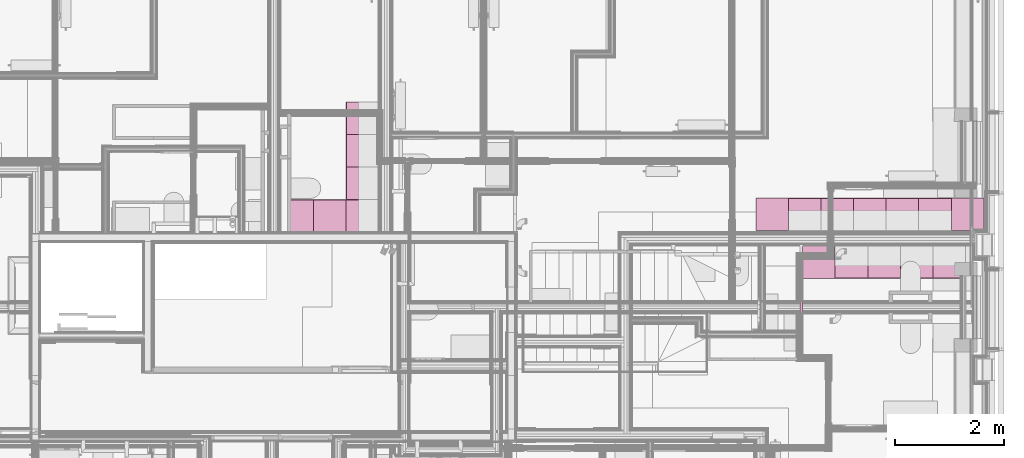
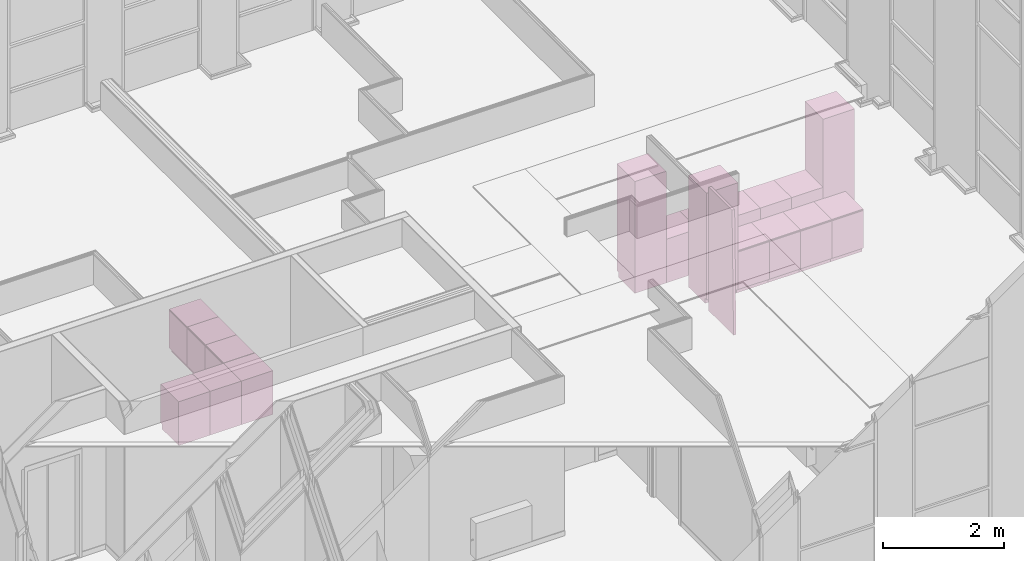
# One storey, part 168 of 169: 19 furnishings.
"""IFC2X3 building model written with IfcOpenShell, lengths in metres."""

from ifc_helpers import new_model, entity, si_unit, converted_unit, derived_unit, money_unit, direction, frame, origin_with_axes, place, context, subcontext, project, spatial, faceted_brep, material, type_object, element, save


model = new_model("IFC2X3")

# Units and contexts
model_context = context("Model", 3, precision=1e-05, world=origin_with_axes(), true_north=direction((0.0, 1.0)))
body_context = subcontext(model_context, "Body", "Model", "MODEL_VIEW", scale=1.0)
ifc_project = project(units=[si_unit("LENGTHUNIT", "METRE"), si_unit("AREAUNIT", "SQUARE_METRE"), si_unit("VOLUMEUNIT", "CUBIC_METRE"), si_unit("ABSORBEDDOSEUNIT", "GRAY"), si_unit("AMOUNTOFSUBSTANCEUNIT", "MOLE"), si_unit("DOSEEQUIVALENTUNIT", "SIEVERT"), si_unit("ELECTRICCAPACITANCEUNIT", "FARAD"), si_unit("ELECTRICCHARGEUNIT", "COULOMB"), si_unit("ELECTRICCONDUCTANCEUNIT", "SIEMENS"), si_unit("ELECTRICCURRENTUNIT", "AMPERE"), si_unit("ELECTRICRESISTANCEUNIT", "OHM"), si_unit("ELECTRICVOLTAGEUNIT", "VOLT"), si_unit("ENERGYUNIT", "JOULE"), si_unit("FORCEUNIT", "NEWTON"), si_unit("FREQUENCYUNIT", "HERTZ"), si_unit("ILLUMINANCEUNIT", "LUX"), si_unit("INDUCTANCEUNIT", "HENRY"), si_unit("LUMINOUSFLUXUNIT", "LUMEN"), si_unit("LUMINOUSINTENSITYUNIT", "CANDELA"), si_unit("MAGNETICFLUXDENSITYUNIT", "TESLA"), si_unit("MAGNETICFLUXUNIT", "WEBER"), si_unit("MASSUNIT", "GRAM"), converted_unit("PLANEANGLEUNIT", "degree", entity("IfcReal", 0.0174532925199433), si_unit("PLANEANGLEUNIT", "RADIAN"), dimensions=[0, 0, 0, 0, 0, 0, 0]), si_unit("POWERUNIT", "WATT"), si_unit("PRESSUREUNIT", "PASCAL"), si_unit("RADIOACTIVITYUNIT", "BECQUEREL"), si_unit("SOLIDANGLEUNIT", "STERADIAN"), si_unit("THERMODYNAMICTEMPERATUREUNIT", "KELVIN"), si_unit("TIMEUNIT", "SECOND"), derived_unit("ACCELERATIONUNIT", [(si_unit("LENGTHUNIT", "METRE"), 1), (si_unit("TIMEUNIT", "SECOND"), -2)]), derived_unit("ANGULARVELOCITYUNIT", [(converted_unit("PLANEANGLEUNIT", "degree", entity("IfcReal", 0.0174532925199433), si_unit("PLANEANGLEUNIT", "RADIAN"), dimensions=[0, 0, 0, 0, 0, 0, 0]), 1), (si_unit("TIMEUNIT", "SECOND"), -1)]), derived_unit("CURVATUREUNIT", [(converted_unit("PLANEANGLEUNIT", "degree", entity("IfcReal", 0.0174532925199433), si_unit("PLANEANGLEUNIT", "RADIAN"), dimensions=[0, 0, 0, 0, 0, 0, 0]), 1), (si_unit("LENGTHUNIT", "METRE"), -1)]), derived_unit("DYNAMICVISCOSITYUNIT", [(si_unit("PRESSUREUNIT", "PASCAL"), 1), (si_unit("TIMEUNIT", "SECOND"), 1)]), derived_unit("HEATFLUXDENSITYUNIT", [(si_unit("POWERUNIT", "WATT"), 1), (si_unit("LENGTHUNIT", "METRE"), -2)]), derived_unit("HEATINGVALUEUNIT", [(si_unit("ENERGYUNIT", "JOULE"), 1), (si_unit("MASSUNIT", "GRAM"), -1)]), derived_unit("INTEGERCOUNTRATEUNIT", [(si_unit("TIMEUNIT", "SECOND"), -1)]), derived_unit("IONCONCENTRATIONUNIT", [(si_unit("MASSUNIT", "GRAM"), 1), (si_unit("VOLUMEUNIT", "CUBIC_METRE"), -1)]), derived_unit("ISOTHERMALMOISTURECAPACITYUNIT", [(si_unit("VOLUMEUNIT", "CUBIC_METRE"), 1), (si_unit("MASSUNIT", "GRAM"), -1)]), derived_unit("KINEMATICVISCOSITYUNIT", [(si_unit("AREAUNIT", "SQUARE_METRE"), 1), (si_unit("TIMEUNIT", "SECOND"), -1)]), derived_unit("LINEARFORCEUNIT", [(si_unit("FORCEUNIT", "NEWTON"), 1), (si_unit("LENGTHUNIT", "METRE"), -1)]), derived_unit("LINEARMOMENTUNIT", [(si_unit("FORCEUNIT", "NEWTON"), 1), (si_unit("LENGTHUNIT", "METRE"), -1)]), derived_unit("LINEARSTIFFNESSUNIT", [(si_unit("FORCEUNIT", "NEWTON"), 1), (si_unit("LENGTHUNIT", "METRE"), -1)]), derived_unit("LINEARVELOCITYUNIT", [(si_unit("LENGTHUNIT", "METRE"), 1), (si_unit("TIMEUNIT", "SECOND"), -1)]), derived_unit("LUMINOUSINTENSITYDISTRIBUTIONUNIT", [(si_unit("LUMINOUSINTENSITYUNIT", "CANDELA"), 1), (si_unit("LUMINOUSFLUXUNIT", "LUMEN"), -1)]), derived_unit("MASSDENSITYUNIT", [(si_unit("MASSUNIT", "GRAM"), 1), (si_unit("VOLUMEUNIT", "CUBIC_METRE"), -1)]), derived_unit("MASSFLOWRATEUNIT", [(si_unit("MASSUNIT", "GRAM"), 1), (si_unit("TIMEUNIT", "SECOND"), -1)]), derived_unit("MASSPERLENGTHUNIT", [(si_unit("MASSUNIT", "GRAM"), 1), (si_unit("LENGTHUNIT", "METRE"), -1)]), derived_unit("MODULUSOFELASTICITYUNIT", [(si_unit("FORCEUNIT", "NEWTON"), 1), (si_unit("AREAUNIT", "SQUARE_METRE"), -1)]), derived_unit("MODULUSOFLINEARSUBGRADEREACTIONUNIT", [(si_unit("FORCEUNIT", "NEWTON"), 1), (si_unit("LENGTHUNIT", "METRE"), -2)]), derived_unit("MODULUSOFROTATIONALSUBGRADEREACTIONUNIT", [(si_unit("FORCEUNIT", "NEWTON"), 1), (si_unit("LENGTHUNIT", "METRE"), 1)]), derived_unit("MODULUSOFSUBGRADEREACTIONUNIT", [(si_unit("FORCEUNIT", "NEWTON"), 1), (si_unit("VOLUMEUNIT", "CUBIC_METRE"), -1)]), derived_unit("MOISTUREDIFFUSIVITYUNIT", [(si_unit("VOLUMEUNIT", "CUBIC_METRE"), 1), (si_unit("TIMEUNIT", "SECOND"), -1)]), derived_unit("MOLECULARWEIGHTUNIT", [(si_unit("MASSUNIT", "GRAM"), 1), (si_unit("AMOUNTOFSUBSTANCEUNIT", "MOLE"), -1)]), derived_unit("PLANARFORCEUNIT", [(si_unit("FORCEUNIT", "NEWTON"), 1), (si_unit("LENGTHUNIT", "METRE"), -2)]), derived_unit("ROTATIONALFREQUENCYUNIT", [(si_unit("TIMEUNIT", "SECOND"), -1)]), derived_unit("ROTATIONALMASSUNIT", [(si_unit("MASSUNIT", "GRAM"), 1), (si_unit("LENGTHUNIT", "METRE"), 2)]), derived_unit("ROTATIONALSTIFFNESSUNIT", [(si_unit("FORCEUNIT", "NEWTON"), 1), (si_unit("LENGTHUNIT", "METRE"), 1), (converted_unit("PLANEANGLEUNIT", "degree", entity("IfcReal", 0.0174532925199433), si_unit("PLANEANGLEUNIT", "RADIAN"), dimensions=[0, 0, 0, 0, 0, 0, 0]), -1)]), derived_unit("SECTIONAREAINTEGRALUNIT", [(si_unit("LENGTHUNIT", "METRE"), 5)]), derived_unit("SECTIONMODULUSUNIT", [(si_unit("LENGTHUNIT", "METRE"), 3)]), derived_unit("SHEARMODULUSUNIT", [(si_unit("FORCEUNIT", "NEWTON"), 1), (si_unit("AREAUNIT", "SQUARE_METRE"), -1)]), derived_unit("SOUNDPOWERUNIT", [(si_unit("ENERGYUNIT", "JOULE"), 1), (si_unit("TIMEUNIT", "SECOND"), -1)]), derived_unit("SPECIFICHEATCAPACITYUNIT", [(si_unit("FORCEUNIT", "NEWTON"), 1), (si_unit("MASSUNIT", "GRAM"), -1), (si_unit("THERMODYNAMICTEMPERATUREUNIT", "KELVIN"), -1)]), derived_unit("TEMPERATUREGRADIENTUNIT", [(si_unit("THERMODYNAMICTEMPERATUREUNIT", "KELVIN"), 1), (si_unit("LENGTHUNIT", "METRE"), -1)]), derived_unit("THERMALADMITTANCEUNIT", [(si_unit("POWERUNIT", "WATT"), 1), (si_unit("AREAUNIT", "SQUARE_METRE"), -1), (si_unit("THERMODYNAMICTEMPERATUREUNIT", "KELVIN"), -1)]), derived_unit("THERMALCONDUCTANCEUNIT", [(si_unit("POWERUNIT", "WATT"), 1), (si_unit("LENGTHUNIT", "METRE"), -1), (si_unit("THERMODYNAMICTEMPERATUREUNIT", "KELVIN"), -1)]), derived_unit("THERMALEXPANSIONCOEFFICIENTUNIT", [(si_unit("THERMODYNAMICTEMPERATUREUNIT", "KELVIN"), -1)]), derived_unit("THERMALRESISTANCEUNIT", [(si_unit("AREAUNIT", "SQUARE_METRE"), 1), (si_unit("POWERUNIT", "WATT"), -1)]), derived_unit("THERMALTRANSMITTANCEUNIT", [(si_unit("POWERUNIT", "WATT"), 1), (si_unit("AREAUNIT", "SQUARE_METRE"), -1), (si_unit("THERMODYNAMICTEMPERATUREUNIT", "KELVIN"), -1)]), derived_unit("TORQUEUNIT", [(si_unit("FORCEUNIT", "NEWTON"), 1), (si_unit("LENGTHUNIT", "METRE"), 1)]), derived_unit("VAPORPERMEABILITYUNIT", [(si_unit("MASSUNIT", "GRAM"), 1), (si_unit("TIMEUNIT", "SECOND"), -1)]), derived_unit("VOLUMETRICFLOWRATEUNIT", [(si_unit("VOLUMEUNIT", "CUBIC_METRE"), 1), (si_unit("TIMEUNIT", "SECOND"), -1)]), derived_unit("WARPINGCONSTANTUNIT", [(si_unit("LENGTHUNIT", "METRE"), 6)]), derived_unit("WARPINGMOMENTUNIT", [(si_unit("FORCEUNIT", "NEWTON"), 1), (si_unit("LENGTHUNIT", "METRE"), 2)]), money_unit("GBP")], contexts=[model_context])

# Site, building, storey, space
site_placement = place(None, origin_with_axes())
site = spatial("IfcSite", under=ifc_project, at=site_placement, Name="Site", CompositionType="ELEMENT")
building_placement = place(site_placement, origin_with_axes())
building = spatial("IfcBuilding", under=site, at=building_placement, Name="Building01", CompositionType="ELEMENT")
storey_placement = place(building_placement, frame((0.0, 0.0, 5.15), z_axis=(0.0, 0.0, 1.0), x_axis=(1.0, 0.0, 0.0)))
storey = spatial("IfcBuildingStorey", under=building, at=storey_placement, Name="1F", CompositionType="ELEMENT", Elevation=5.15)
space_1_placement = place(storey_placement, frame((15.83, 8.82, 0.017975), z_axis=(0.0, 0.0, 1.0), x_axis=(0.0, -1.0, 0.0)))
space_1 = spatial("IfcSpace", under=storey, at=space_1_placement, Name="02", CompositionType="ELEMENT", InteriorOrExteriorSpace="NOTDEFINED")

# Furnishing
ifc_material = material(Name="A_BSUK_StorageScreening_Ffe")
furniture_type_1 = type_object("IfcFurnitureType", Name="SHE_A-Kitchenunit-Tall")
placement = place(storey_placement, frame((0.0, 0.0, -5.15), z_axis=(0.0, 0.0, 1.0), x_axis=(1.0, 0.0, 0.0)))
element("IfcFurnishingElement", 1, at=placement, inside=space_1, type_object=furniture_type_1, material=ifc_material, Name="02", ObjectType="SHE_A-Kitchenunit-Tall", context=body_context, shape_type="Brep", body=[
    faceted_brep([(23.009999, 8.863, 7.414), (22.409999, 8.863, 7.414), (22.409999, 8.863, 5.154), (23.009999, 8.863, 5.154), (22.409999, 9.463, 7.414), (22.409999, 9.463, 5.254), (22.409999, 9.413, 5.254), (22.409999, 9.413, 5.154), (23.009999, 9.413, 5.254), (23.009999, 9.413, 5.154), (23.009999, 9.463, 5.254), (23.009999, 9.463, 7.414)], [[[0, 1, 2, 3]], [[1, 4, 5, 6, 7, 2]], [[8, 9, 7, 6]], [[8, 10, 11, 0, 3, 9]], [[2, 7, 9, 3]], [[5, 4, 11, 10]], [[11, 4, 1, 0]], [[6, 5, 10, 8]]]),
])

# Space
space_2_placement = place(storey_placement, frame((22.624794, 8.82, 0.017975), z_axis=(0.0, 0.0, 1.0), x_axis=(1.0, 0.0, 0.0)))
space_2 = spatial("IfcSpace", under=storey, at=space_2_placement, Name="k/d/l", CompositionType="ELEMENT", InteriorOrExteriorSpace="NOTDEFINED")

# Furnishing
element("IfcFurnishingElement", 2, at=placement, inside=space_2, type_object=furniture_type_1, material=ifc_material, Name="02", ObjectType="SHE_A-Kitchenunit-Tall", context=body_context, shape_type="Brep", body=[
    faceted_brep([(26.609999, 8.863, 7.414), (26.009999, 8.863, 7.414), (26.009999, 8.863, 5.154), (26.609999, 8.863, 5.154), (26.009999, 9.463, 7.414), (26.009999, 9.463, 5.254), (26.009999, 9.413, 5.254), (26.009999, 9.413, 5.154), (26.609999, 9.413, 5.254), (26.609999, 9.413, 5.154), (26.609999, 9.463, 5.254), (26.609999, 9.463, 7.414)], [[[0, 1, 2, 3]], [[1, 4, 5, 6, 7, 2]], [[8, 9, 7, 6]], [[8, 10, 11, 0, 3, 9]], [[2, 7, 9, 3]], [[5, 4, 11, 10]], [[11, 4, 1, 0]], [[6, 5, 10, 8]]]),
])

# Space
space_3_placement = place(storey_placement, frame((20.122661, 5.205, 0.017975), z_axis=(0.0, 0.0, 1.0), x_axis=(1.0, 0.0, 0.0)))
space_3 = spatial("IfcSpace", under=storey, at=space_3_placement, Name="03", CompositionType="ELEMENT", InteriorOrExteriorSpace="NOTDEFINED")

# Furnishing
element("IfcFurnishingElement", 3, at=placement, inside=space_3, type_object=furniture_type_1, material=ifc_material, Name="03", ObjectType="SHE_A-Kitchenunit-Tall", context=body_context, shape_type="Brep", body=[
    faceted_brep([(23.871529, 8.58, 5.154), (23.271529, 8.58, 5.154), (23.271529, 8.58, 7.414), (23.871529, 8.58, 7.414), (23.271529, 8.03, 5.154), (23.271529, 8.03, 5.254), (23.271529, 7.98, 5.254), (23.271529, 7.98, 7.414), (23.871529, 8.03, 5.154), (23.871529, 8.03, 5.254), (23.871529, 7.98, 7.414), (23.871529, 7.98, 5.254)], [[[0, 1, 2, 3]], [[1, 4, 5, 6, 7, 2]], [[5, 4, 8, 9]], [[8, 0, 3, 10, 11, 9]], [[0, 8, 4, 1]], [[11, 10, 7, 6]], [[3, 2, 7, 10]], [[9, 11, 6, 5]]]),
])

# Space
space_4_placement = place(storey_placement, frame((7.289669, 14.582, 0.017975), z_axis=(0.0, 0.0, 1.0), x_axis=(0.0, -1.0, 0.0)))
space_4 = spatial("IfcSpace", under=storey, at=space_4_placement, Name="08", CompositionType="ELEMENT", InteriorOrExteriorSpace="NOTDEFINED")

# Furnishings
furniture_type_2 = type_object("IfcFurnitureType", Name="SHE_A-Kitchenunit-Base")
element("IfcFurnishingElement", 4, at=placement, inside=space_4, type_object=furniture_type_2, material=ifc_material, Name="08", ObjectType="SHE_A-Kitchenunit-Base", context=body_context, shape_type="Brep", body=[
    faceted_brep([(14.868132, 8.835, 6.039), (14.268132, 8.835, 6.039), (14.268132, 8.835, 5.154), (14.868132, 8.835, 5.154), (14.268132, 9.427929, 6.039), (14.268132, 9.435, 6.031929), (14.268132, 9.435, 6.021071), (14.268132, 9.427929, 6.014), (14.268132, 9.435, 6.014), (14.268132, 9.435, 5.254), (14.268132, 9.385, 5.254), (14.268132, 9.385, 5.154), (14.868132, 9.385, 5.254), (14.868132, 9.385, 5.154), (14.868132, 9.435, 5.254), (14.868132, 9.435, 6.014), (14.868132, 9.427929, 6.014), (14.868132, 9.435, 6.021071), (14.868132, 9.435, 6.031929), (14.868132, 9.427929, 6.039)], [[[0, 1, 2, 3]], [[1, 4, 5, 6, 7, 8, 9, 10, 11, 2]], [[12, 13, 11, 10]], [[12, 14, 15, 16, 17, 18, 19, 0, 3, 13]], [[2, 11, 13, 3]], [[7, 16, 15, 8]], [[9, 8, 15, 14]], [[10, 9, 14, 12]], [[5, 18, 17, 6]], [[19, 4, 1, 0]], [[6, 17, 16, 7]], [[4, 19, 18, 5]]]),
])
element("IfcFurnishingElement", 5, at=placement, inside=space_4, type_object=furniture_type_2, material=ifc_material, Name="08", ObjectType="SHE_A-Kitchenunit-Base", context=body_context, shape_type="Brep", body=[
    faceted_brep([(15.468132, 8.835, 6.039), (14.868132, 8.835, 6.039), (14.868132, 8.835, 5.154), (15.468132, 8.835, 5.154), (14.868132, 9.427929, 6.039), (14.868132, 9.435, 6.031929), (14.868132, 9.435, 6.021071), (14.868132, 9.427929, 6.014), (14.868132, 9.435, 6.014), (14.868132, 9.435, 5.254), (14.868132, 9.385, 5.254), (14.868132, 9.385, 5.154), (15.468132, 9.385, 5.254), (15.468132, 9.385, 5.154), (15.468132, 9.435, 5.254), (15.468132, 9.435, 6.014), (15.468132, 9.427929, 6.014), (15.468132, 9.435, 6.021071), (15.468132, 9.435, 6.031929), (15.468132, 9.427929, 6.039)], [[[0, 1, 2, 3]], [[1, 4, 5, 6, 7, 8, 9, 10, 11, 2]], [[12, 13, 11, 10]], [[12, 14, 15, 16, 17, 18, 19, 0, 3, 13]], [[2, 11, 13, 3]], [[7, 16, 15, 8]], [[9, 8, 15, 14]], [[10, 9, 14, 12]], [[5, 18, 17, 6]], [[19, 4, 1, 0]], [[6, 17, 16, 7]], [[4, 19, 18, 5]]]),
])
element("IfcFurnishingElement", 6, at=placement, inside=space_4, type_object=furniture_type_2, material=ifc_material, Name="08", ObjectType="SHE_A-Kitchenunit-Base", context=body_context, shape_type="Brep", body=[
    faceted_brep([(15.468132, 10.035, 6.039), (15.468132, 9.435, 6.039), (15.468132, 9.435, 5.154), (15.468132, 10.035, 5.154), (14.875203, 9.435, 6.039), (14.868132, 9.435, 6.031929), (14.868132, 9.435, 6.021071), (14.875203, 9.435, 6.014), (14.868132, 9.435, 6.014), (14.868132, 9.435, 5.254), (14.918132, 9.435, 5.254), (14.918132, 9.435, 5.154), (14.918132, 10.035, 5.254), (14.918132, 10.035, 5.154), (14.868132, 10.035, 5.254), (14.868132, 10.035, 6.014), (14.875203, 10.035, 6.014), (14.868132, 10.035, 6.021071), (14.868132, 10.035, 6.031929), (14.875203, 10.035, 6.039)], [[[0, 1, 2, 3]], [[1, 4, 5, 6, 7, 8, 9, 10, 11, 2]], [[12, 13, 11, 10]], [[12, 14, 15, 16, 17, 18, 19, 0, 3, 13]], [[2, 11, 13, 3]], [[7, 16, 15, 8]], [[9, 8, 15, 14]], [[10, 9, 14, 12]], [[5, 18, 17, 6]], [[19, 4, 1, 0]], [[6, 17, 16, 7]], [[4, 19, 18, 5]]]),
])
element("IfcFurnishingElement", 7, at=placement, inside=space_4, type_object=furniture_type_2, material=ifc_material, Name="08", ObjectType="SHE_A-Kitchenunit-Base", context=body_context, shape_type="Brep", body=[
    faceted_brep([(15.468132, 10.635, 6.039), (15.468132, 10.035, 6.039), (15.468132, 10.035, 5.154), (15.468132, 10.635, 5.154), (14.875203, 10.035, 6.039), (14.868132, 10.035, 6.031929), (14.868132, 10.035, 6.021071), (14.875203, 10.035, 6.014), (14.868132, 10.035, 6.014), (14.868132, 10.035, 5.254), (14.918132, 10.035, 5.254), (14.918132, 10.035, 5.154), (14.918132, 10.635, 5.254), (14.918132, 10.635, 5.154), (14.868132, 10.635, 5.254), (14.868132, 10.635, 6.014), (14.875203, 10.635, 6.014), (14.868132, 10.635, 6.021071), (14.868132, 10.635, 6.031929), (14.875203, 10.635, 6.039)], [[[0, 1, 2, 3]], [[1, 4, 5, 6, 7, 8, 9, 10, 11, 2]], [[12, 13, 11, 10]], [[12, 14, 15, 16, 17, 18, 19, 0, 3, 13]], [[2, 11, 13, 3]], [[7, 16, 15, 8]], [[9, 8, 15, 14]], [[10, 9, 14, 12]], [[5, 18, 17, 6]], [[19, 4, 1, 0]], [[6, 17, 16, 7]], [[4, 19, 18, 5]]]),
])
element("IfcFurnishingElement", 8, at=placement, inside=space_4, type_object=furniture_type_2, material=ifc_material, Name="08", ObjectType="SHE_A-Kitchenunit-Base", context=body_context, shape_type="Brep", body=[
    faceted_brep([(15.468132, 11.235, 6.039), (15.468132, 10.635, 6.039), (15.468132, 10.635, 5.154), (15.468132, 11.235, 5.154), (14.875203, 10.635, 6.039), (14.868132, 10.635, 6.031929), (14.868132, 10.635, 6.021071), (14.875203, 10.635, 6.014), (14.868132, 10.635, 6.014), (14.868132, 10.635, 5.254), (14.918132, 10.635, 5.254), (14.918132, 10.635, 5.154), (14.918132, 11.235, 5.254), (14.918132, 11.235, 5.154), (14.868132, 11.235, 5.254), (14.868132, 11.235, 6.014), (14.875203, 11.235, 6.014), (14.868132, 11.235, 6.021071), (14.868132, 11.235, 6.031929), (14.875203, 11.235, 6.039)], [[[0, 1, 2, 3]], [[1, 4, 5, 6, 7, 8, 9, 10, 11, 2]], [[12, 13, 11, 10]], [[12, 14, 15, 16, 17, 18, 19, 0, 3, 13]], [[2, 11, 13, 3]], [[7, 16, 15, 8]], [[9, 8, 15, 14]], [[10, 9, 14, 12]], [[5, 18, 17, 6]], [[19, 4, 1, 0]], [[6, 17, 16, 7]], [[4, 19, 18, 5]]]),
])
element("IfcFurnishingElement", 9, at=placement, inside=space_4, type_object=furniture_type_2, material=ifc_material, Name="08", ObjectType="SHE_A-Kitchenunit-Base", context=body_context, shape_type="Brep", body=[
    faceted_brep([(14.268132, 8.835, 6.039), (13.668132, 8.835, 6.039), (13.668132, 8.835, 5.154), (14.268132, 8.835, 5.154), (13.668132, 9.427929, 6.039), (13.668132, 9.435, 6.031929), (13.668132, 9.435, 6.021071), (13.668132, 9.427929, 6.014), (13.668132, 9.435, 6.014), (13.668132, 9.435, 5.254), (13.668132, 9.385, 5.254), (13.668132, 9.385, 5.154), (14.268132, 9.385, 5.254), (14.268132, 9.385, 5.154), (14.268132, 9.435, 5.254), (14.268132, 9.435, 6.014), (14.268132, 9.427929, 6.014), (14.268132, 9.435, 6.021071), (14.268132, 9.435, 6.031929), (14.268132, 9.427929, 6.039)], [[[0, 1, 2, 3]], [[1, 4, 5, 6, 7, 8, 9, 10, 11, 2]], [[12, 13, 11, 10]], [[12, 14, 15, 16, 17, 18, 19, 0, 3, 13]], [[2, 11, 13, 3]], [[7, 16, 15, 8]], [[9, 8, 15, 14]], [[10, 9, 14, 12]], [[5, 18, 17, 6]], [[19, 4, 1, 0]], [[6, 17, 16, 7]], [[4, 19, 18, 5]]]),
])
element("IfcFurnishingElement", 10, at=placement, inside=space_2, type_object=furniture_type_2, material=ifc_material, Name="02", ObjectType="SHE_A-Kitchenunit-Base", context=body_context, shape_type="Brep", body=[
    faceted_brep([(23.609999, 8.863, 6.039), (23.009999, 8.863, 6.039), (23.009999, 8.863, 5.154), (23.609999, 8.863, 5.154), (23.009999, 9.455929, 6.039), (23.009999, 9.463, 6.031929), (23.009999, 9.463, 6.021071), (23.009999, 9.455929, 6.014), (23.009999, 9.463, 6.014), (23.009999, 9.463, 5.254), (23.009999, 9.413, 5.254), (23.009999, 9.413, 5.154), (23.609999, 9.413, 5.254), (23.609999, 9.413, 5.154), (23.609999, 9.463, 5.254), (23.609999, 9.463, 6.014), (23.609999, 9.455929, 6.014), (23.609999, 9.463, 6.021071), (23.609999, 9.463, 6.031929), (23.609999, 9.455929, 6.039)], [[[0, 1, 2, 3]], [[1, 4, 5, 6, 7, 8, 9, 10, 11, 2]], [[12, 13, 11, 10]], [[12, 14, 15, 16, 17, 18, 19, 0, 3, 13]], [[2, 11, 13, 3]], [[7, 16, 15, 8]], [[9, 8, 15, 14]], [[10, 9, 14, 12]], [[5, 18, 17, 6]], [[19, 4, 1, 0]], [[6, 17, 16, 7]], [[4, 19, 18, 5]]]),
])
element("IfcFurnishingElement", 11, at=placement, inside=space_2, type_object=furniture_type_2, material=ifc_material, Name="02", ObjectType="SHE_A-Kitchenunit-Base", context=body_context, shape_type="Brep", body=[
    faceted_brep([(24.209999, 8.863, 6.039), (23.609999, 8.863, 6.039), (23.609999, 8.863, 5.154), (24.209999, 8.863, 5.154), (23.609999, 9.455929, 6.039), (23.609999, 9.463, 6.031929), (23.609999, 9.463, 6.021071), (23.609999, 9.455929, 6.014), (23.609999, 9.463, 6.014), (23.609999, 9.463, 5.254), (23.609999, 9.413, 5.254), (23.609999, 9.413, 5.154), (24.209999, 9.413, 5.254), (24.209999, 9.413, 5.154), (24.209999, 9.463, 5.254), (24.209999, 9.463, 6.014), (24.209999, 9.455929, 6.014), (24.209999, 9.463, 6.021071), (24.209999, 9.463, 6.031929), (24.209999, 9.455929, 6.039)], [[[0, 1, 2, 3]], [[1, 4, 5, 6, 7, 8, 9, 10, 11, 2]], [[12, 13, 11, 10]], [[12, 14, 15, 16, 17, 18, 19, 0, 3, 13]], [[2, 11, 13, 3]], [[7, 16, 15, 8]], [[9, 8, 15, 14]], [[10, 9, 14, 12]], [[5, 18, 17, 6]], [[19, 4, 1, 0]], [[6, 17, 16, 7]], [[4, 19, 18, 5]]]),
])
element("IfcFurnishingElement", 12, at=placement, inside=space_2, type_object=furniture_type_2, material=ifc_material, Name="02", ObjectType="SHE_A-Kitchenunit-Base", context=body_context, shape_type="Brep", body=[
    faceted_brep([(24.809999, 8.863, 6.039), (24.209999, 8.863, 6.039), (24.209999, 8.863, 5.154), (24.809999, 8.863, 5.154), (24.209999, 9.455929, 6.039), (24.209999, 9.463, 6.031929), (24.209999, 9.463, 6.021071), (24.209999, 9.455929, 6.014), (24.209999, 9.463, 6.014), (24.209999, 9.463, 5.254), (24.209999, 9.413, 5.254), (24.209999, 9.413, 5.154), (24.809999, 9.413, 5.254), (24.809999, 9.413, 5.154), (24.809999, 9.463, 5.254), (24.809999, 9.463, 6.014), (24.809999, 9.455929, 6.014), (24.809999, 9.463, 6.021071), (24.809999, 9.463, 6.031929), (24.809999, 9.455929, 6.039)], [[[0, 1, 2, 3]], [[1, 4, 5, 6, 7, 8, 9, 10, 11, 2]], [[12, 13, 11, 10]], [[12, 14, 15, 16, 17, 18, 19, 0, 3, 13]], [[2, 11, 13, 3]], [[7, 16, 15, 8]], [[9, 8, 15, 14]], [[10, 9, 14, 12]], [[5, 18, 17, 6]], [[19, 4, 1, 0]], [[6, 17, 16, 7]], [[4, 19, 18, 5]]]),
])
element("IfcFurnishingElement", 13, at=placement, inside=space_1, type_object=furniture_type_2, material=ifc_material, Name="02", ObjectType="SHE_A-Kitchenunit-Base", context=body_context, shape_type="Brep", body=[
    faceted_brep([(25.409999, 8.863, 6.039), (24.809999, 8.863, 6.039), (24.809999, 8.863, 5.154), (25.409999, 8.863, 5.154), (24.809999, 9.455929, 6.039), (24.809999, 9.463, 6.031929), (24.809999, 9.463, 6.021071), (24.809999, 9.455929, 6.014), (24.809999, 9.463, 6.014), (24.809999, 9.463, 5.254), (24.809999, 9.413, 5.254), (24.809999, 9.413, 5.154), (25.409999, 9.413, 5.254), (25.409999, 9.413, 5.154), (25.409999, 9.463, 5.254), (25.409999, 9.463, 6.014), (25.409999, 9.455929, 6.014), (25.409999, 9.463, 6.021071), (25.409999, 9.463, 6.031929), (25.409999, 9.455929, 6.039)], [[[0, 1, 2, 3]], [[1, 4, 5, 6, 7, 8, 9, 10, 11, 2]], [[12, 13, 11, 10]], [[12, 14, 15, 16, 17, 18, 19, 0, 3, 13]], [[2, 11, 13, 3]], [[7, 16, 15, 8]], [[9, 8, 15, 14]], [[10, 9, 14, 12]], [[5, 18, 17, 6]], [[19, 4, 1, 0]], [[6, 17, 16, 7]], [[4, 19, 18, 5]]]),
])
element("IfcFurnishingElement", 14, at=placement, inside=space_1, type_object=furniture_type_2, material=ifc_material, Name="02", ObjectType="SHE_A-Kitchenunit-Base", context=body_context, shape_type="Brep", body=[
    faceted_brep([(26.009999, 8.863, 6.039), (25.409999, 8.863, 6.039), (25.409999, 8.863, 5.154), (26.009999, 8.863, 5.154), (25.409999, 9.455929, 6.039), (25.409999, 9.463, 6.031929), (25.409999, 9.463, 6.021071), (25.409999, 9.455929, 6.014), (25.409999, 9.463, 6.014), (25.409999, 9.463, 5.254), (25.409999, 9.413, 5.254), (25.409999, 9.413, 5.154), (26.009999, 9.413, 5.254), (26.009999, 9.413, 5.154), (26.009999, 9.463, 5.254), (26.009999, 9.463, 6.014), (26.009999, 9.455929, 6.014), (26.009999, 9.463, 6.021071), (26.009999, 9.463, 6.031929), (26.009999, 9.455929, 6.039)], [[[0, 1, 2, 3]], [[1, 4, 5, 6, 7, 8, 9, 10, 11, 2]], [[12, 13, 11, 10]], [[12, 14, 15, 16, 17, 18, 19, 0, 3, 13]], [[2, 11, 13, 3]], [[7, 16, 15, 8]], [[9, 8, 15, 14]], [[10, 9, 14, 12]], [[5, 18, 17, 6]], [[19, 4, 1, 0]], [[6, 17, 16, 7]], [[4, 19, 18, 5]]]),
])
element("IfcFurnishingElement", 15, at=placement, inside=space_3, type_object=furniture_type_2, material=ifc_material, Name="03", ObjectType="SHE_A-Kitchenunit-Base", context=body_context, shape_type="Brep", body=[
    faceted_brep([(25.671529, 8.58, 5.154), (25.071529, 8.58, 5.154), (25.071529, 8.58, 6.039), (25.671529, 8.58, 6.039), (25.071529, 8.03, 5.154), (25.071529, 8.03, 5.254), (25.071529, 7.98, 5.254), (25.071529, 7.98, 6.014), (25.071529, 7.987071, 6.014), (25.071529, 7.98, 6.021071), (25.071529, 7.98, 6.031929), (25.071529, 7.987071, 6.039), (25.671529, 8.03, 5.154), (25.671529, 8.03, 5.254), (25.671529, 7.987071, 6.039), (25.671529, 7.98, 6.031929), (25.671529, 7.98, 6.021071), (25.671529, 7.987071, 6.014), (25.671529, 7.98, 6.014), (25.671529, 7.98, 5.254)], [[[0, 1, 2, 3]], [[1, 4, 5, 6, 7, 8, 9, 10, 11, 2]], [[5, 4, 12, 13]], [[12, 0, 3, 14, 15, 16, 17, 18, 19, 13]], [[0, 12, 4, 1]], [[7, 18, 17, 8]], [[19, 18, 7, 6]], [[13, 19, 6, 5]], [[9, 16, 15, 10]], [[3, 2, 11, 14]], [[8, 17, 16, 9]], [[10, 15, 14, 11]]]),
])
element("IfcFurnishingElement", 16, at=placement, inside=space_3, type_object=furniture_type_2, material=ifc_material, Name="03", ObjectType="SHE_A-Kitchenunit-Base", context=body_context, shape_type="Brep", body=[
    faceted_brep([(25.071529, 8.58, 5.154), (24.471529, 8.58, 5.154), (24.471529, 8.58, 6.039), (25.071529, 8.58, 6.039), (24.471529, 8.03, 5.154), (24.471529, 8.03, 5.254), (24.471529, 7.98, 5.254), (24.471529, 7.98, 6.014), (24.471529, 7.987071, 6.014), (24.471529, 7.98, 6.021071), (24.471529, 7.98, 6.031929), (24.471529, 7.987071, 6.039), (25.071529, 8.03, 5.154), (25.071529, 8.03, 5.254), (25.071529, 7.987071, 6.039), (25.071529, 7.98, 6.031929), (25.071529, 7.98, 6.021071), (25.071529, 7.987071, 6.014), (25.071529, 7.98, 6.014), (25.071529, 7.98, 5.254)], [[[0, 1, 2, 3]], [[1, 4, 5, 6, 7, 8, 9, 10, 11, 2]], [[5, 4, 12, 13]], [[12, 0, 3, 14, 15, 16, 17, 18, 19, 13]], [[0, 12, 4, 1]], [[7, 18, 17, 8]], [[19, 18, 7, 6]], [[13, 19, 6, 5]], [[9, 16, 15, 10]], [[3, 2, 11, 14]], [[8, 17, 16, 9]], [[10, 15, 14, 11]]]),
])
element("IfcFurnishingElement", 17, at=placement, inside=space_3, type_object=furniture_type_2, material=ifc_material, Name="03", ObjectType="SHE_A-Kitchenunit-Base", context=body_context, shape_type="Brep", body=[
    faceted_brep([(24.471529, 8.58, 5.154), (23.871529, 8.58, 5.154), (23.871529, 8.58, 6.039), (24.471529, 8.58, 6.039), (23.871529, 8.03, 5.154), (23.871529, 8.03, 5.254), (23.871529, 7.98, 5.254), (23.871529, 7.98, 6.014), (23.871529, 7.987071, 6.014), (23.871529, 7.98, 6.021071), (23.871529, 7.98, 6.031929), (23.871529, 7.987071, 6.039), (24.471529, 8.03, 5.154), (24.471529, 8.03, 5.254), (24.471529, 7.987071, 6.039), (24.471529, 7.98, 6.031929), (24.471529, 7.98, 6.021071), (24.471529, 7.987071, 6.014), (24.471529, 7.98, 6.014), (24.471529, 7.98, 5.254)], [[[0, 1, 2, 3]], [[1, 4, 5, 6, 7, 8, 9, 10, 11, 2]], [[5, 4, 12, 13]], [[12, 0, 3, 14, 15, 16, 17, 18, 19, 13]], [[0, 12, 4, 1]], [[7, 18, 17, 8]], [[19, 18, 7, 6]], [[13, 19, 6, 5]], [[9, 16, 15, 10]], [[3, 2, 11, 14]], [[8, 17, 16, 9]], [[10, 15, 14, 11]]]),
])
element("IfcFurnishingElement", 18, at=placement, inside=space_3, type_object=furniture_type_2, material=ifc_material, Name="03", ObjectType="SHE_A-Kitchenunit-Base", context=body_context, shape_type="Brep", body=[
    faceted_brep([(26.271529, 8.58, 5.154), (25.671529, 8.58, 5.154), (25.671529, 8.58, 6.039), (26.271529, 8.58, 6.039), (25.671529, 8.03, 5.154), (25.671529, 8.03, 5.254), (25.671529, 7.98, 5.254), (25.671529, 7.98, 6.014), (25.671529, 7.987071, 6.014), (25.671529, 7.98, 6.021071), (25.671529, 7.98, 6.031929), (25.671529, 7.987071, 6.039), (26.271529, 8.03, 5.154), (26.271529, 8.03, 5.254), (26.271529, 7.987071, 6.039), (26.271529, 7.98, 6.031929), (26.271529, 7.98, 6.021071), (26.271529, 7.987071, 6.014), (26.271529, 7.98, 6.014), (26.271529, 7.98, 5.254)], [[[0, 1, 2, 3]], [[1, 4, 5, 6, 7, 8, 9, 10, 11, 2]], [[5, 4, 12, 13]], [[12, 0, 3, 14, 15, 16, 17, 18, 19, 13]], [[0, 12, 4, 1]], [[7, 18, 17, 8]], [[19, 18, 7, 6]], [[13, 19, 6, 5]], [[9, 16, 15, 10]], [[3, 2, 11, 14]], [[8, 17, 16, 9]], [[10, 15, 14, 11]]]),
])
furniture_type_3 = type_object("IfcFurnitureType", Name="SHE_A-UtilityCupbord")
element("IfcFurnishingElement", 19, at=placement, inside=space_3, type_object=furniture_type_3, material=ifc_material, Name="03", ObjectType="SHE_A-UtilityCupbord", context=body_context, shape_type="Brep", body=[
    faceted_brep([(23.271529, 7.8225, 5.15), (23.271529, 7.0, 5.15), (23.221529, 7.0, 5.15), (23.221529, 7.8225, 5.15), (23.221529, 7.8225, 7.65), (23.221529, 7.05, 7.65), (23.271529, 7.05, 7.65), (23.271529, 7.8225, 7.65)], [[[0, 1, 2, 3]], [[4, 5, 6, 7]], [[0, 3, 4, 7]], [[1, 0, 7, 6]], [[2, 1, 6, 5]], [[4, 3, 2, 5]]]),
])

save(model, "model.ifc")
